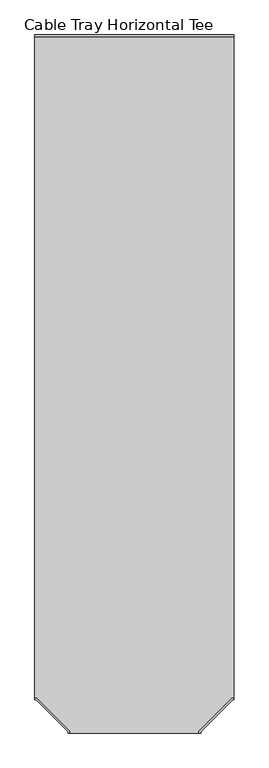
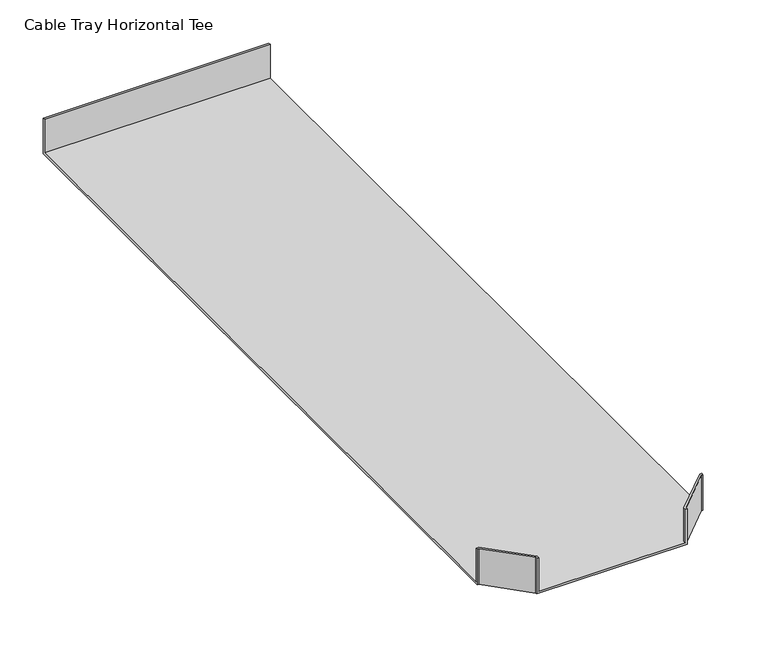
"""IFC4 building model written with IfcOpenShell, lengths in millimetres: cable carrier fitting geometry, Cable Tray Horizontal Tee : ELEC_MAIN_CT_N2402."""

from ifc_helpers import new_model, si_unit, origin, place, context, project, spatial, faceted_brep, source, transform, mapped, element, save


def cable_tray_horizontal_tee_ce7846fd(model_context):
    return source(origin(), model_context, "Body", "Brep", [
        faceted_brep([(-97.46, -550.0, -22.46), (97.46, -550.0, -22.46), (97.46, -546.9478976, -22.46), (146.9478976, -497.46, -22.46), (150.0, -497.46, -22.46), (150.0, 497.46, -22.46), (-150.0, 497.46, -22.46), (-150.0, -497.46, -22.46), (-146.9478976, -497.46, -22.46), (-97.46, -546.9478976, -22.46), (-100.0, -548.0, -25.0), (-148.0, -500.0, -25.0), (-150.0, -500.0, -25.0), (-150.0, 500.0, -25.0), (150.0, 500.0, -25.0), (150.0, -500.0, -25.0), (148.0, -500.0, -25.0), (100.0, -548.0, -25.0), (100.0, -550.0, -25.0), (-100.0, -550.0, -25.0), (-100.0, -550.0, 25.0), (-100.0, -548.0, 25.0), (100.0, -550.0, 25.0), (97.46, -550.0, 25.0), (-97.46, -550.0, 25.0), (100.0, -548.0, 25.0), (148.0, -500.0, 25.0), (150.0, -500.0, 25.0), (150.0, 500.0, 25.0), (150.0, 497.46, 25.0), (150.0, -497.46, 25.0), (-150.0, 500.0, 25.0), (-150.0, -500.0, 25.0), (-150.0, -497.46, 25.0), (-150.0, 497.46, 25.0), (-148.0, -500.0, 25.0), (-97.46, -546.9478976, 25.0), (-146.9478976, -497.46, 25.0), (97.46, -546.9478976, 25.0), (146.9478976, -497.46, 25.0)], [[[0, 1, 2, 3, 4, 5, 6, 7, 8, 9]], [[10, 11, 12, 13, 14, 15, 16, 17, 18, 19]], [[10, 19, 20, 21]], [[20, 19, 18, 22, 23, 1, 0, 24]], [[22, 18, 17, 25]], [[25, 17, 16, 26]], [[26, 16, 15, 27]], [[27, 15, 14, 28, 29, 5, 4, 30]], [[28, 14, 13, 31]], [[31, 13, 12, 32, 33, 7, 6, 34]], [[32, 12, 11, 35]], [[35, 11, 10, 21]], [[28, 31, 34, 29]], [[36, 37, 33, 32, 35, 21, 20, 24]], [[38, 23, 22, 25, 26, 27, 30, 39]], [[37, 36, 9, 8]], [[33, 37, 8, 7]], [[36, 24, 0, 9]], [[39, 30, 4, 3]], [[38, 39, 3, 2]], [[23, 38, 2, 1]], [[29, 34, 6, 5]]]),
    ])


if __name__ == "__main__":
    model = new_model("IFC4")
    model_context = context("Model", 3, world=origin())
    ifc_project = project(units=[si_unit("LENGTHUNIT", "METRE", prefix="MILLI")], contexts=[model_context])
    site = spatial("IfcSite", under=ifc_project)
    building = spatial("IfcBuilding", under=site)
    placement = place(None, origin())
    cable_tray_horizontal_tee_shape = cable_tray_horizontal_tee_ce7846fd(model_context)
    element("IfcCableCarrierFitting", 1, ObjectType="Cable Tray Horizontal Tee : ELEC_MAIN_CT_N2402", at=placement, inside=building, context=model_context, shape_type="MappedRepresentation", body=[
        mapped(cable_tray_horizontal_tee_shape, transform((0.0, 0.0, 0.0), x_axis=(1.0, 0.0, 0.0), y_axis=(0.0, 1.0, 0.0), z_axis=(0.0, 0.0, 1.0))),
    ])
    save(model, "model.ifc")
